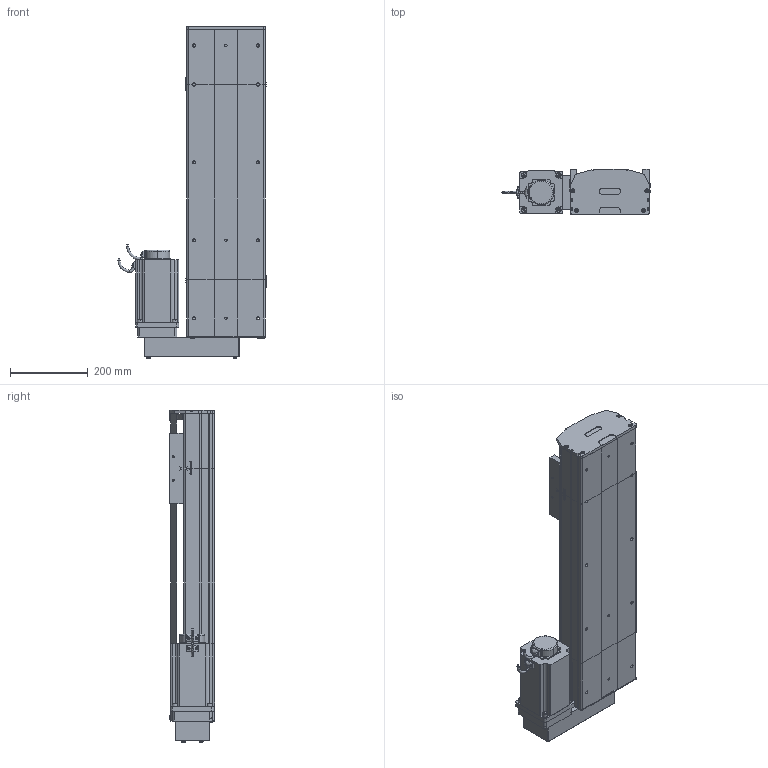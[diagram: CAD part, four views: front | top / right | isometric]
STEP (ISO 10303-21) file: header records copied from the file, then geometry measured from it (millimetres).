
FILE_DESCRIPTION (( 'STEP AP214' ), '1' );
FILE_NAME ('D20 TSH BL S500.STEP', '2010-06-30T08:31:51', ( 'Conseil Régional Haute-Normandie' ), ( 'Conseil Régional Haute-Normandie' ), 'SwSTEP 2.0', 'SolidWorks 2010', '' );
FILE_SCHEMA (( 'AUTOMOTIVE_DESIGN' ));
Length unit declared in the file: millimetre
Products named in the file (35): clavette; Conecteur_Default; corp D20 S500_Default; vis M8 L12_Default; corps 110BLDC170A-630x; Plaque racord D20_Default; plaque de  bout head BR D20_Default; Arbre+rail head D20; rail + arbre  D20 S500; codeur 110BLDC170A-630x; couvercle D20 S500_Default; head BL D20_Default; tail D20 +100_Default; corpl head MD D20_Default; avant 110BLDC170A-630x; Moteur motionking 110BLDC170A-640x; vis M5 L70_Default; renvoi  BR_Default; Conecteur2_Default; couvercle head l D20_Default; tete d''axe bas D20; Chariot D20; corpl tail D20 +100_Default; couvercle tail D20_Default; tete d''axe haut D20; vis M5 L25_Default; guide D20; 2 vis M5 L12_Default; plaque de  bout tail D20_Default; vis M5 L8 90°_Default; chariot D20S_Default; vis M5 L12_Default; Arbre+rail tail D20; course D20 L500_Default; D20 TSH BL S500
Assembly tree (59 placements, depth 4):
  D20 TSH BL S500
    head BL D20_Default
      vis M8 L12_Default  x4
      vis M5 L70_Default  x4
      vis M5 L25_Default  x2
      Arbre+rail head D20
      2 vis M5 L12_Default  x6
      renvoi  BR_Default
      plaque de  bout head BR D20_Default
      vis M5 L12_Default  x2
      Plaque racord D20_Default
      corpl head MD D20_Default
      Moteur motionking 110BLDC170A-640x
        codeur 110BLDC170A-630x
        corps 110BLDC170A-630x
        Conecteur2_Default
        avant 110BLDC170A-630x
        Conecteur_Default
        clavette
      couvercle head l D20_Default
    tail D20 +100_Default
      vis M5 L25_Default  x2
      tete d''axe haut D20
      2 vis M5 L12_Default  x4
      tete d''axe bas D20
      Arbre+rail tail D20
      corpl tail D20 +100_Default
      couvercle tail D20_Default
      vis M5 L8 90°_Default  x2
      plaque de  bout tail D20_Default
    chariot D20S_Default
      vis M5 L12_Default  x4
      guide D20  x2
      Chariot D20
    course D20 L500_Default
      rail + arbre  D20 S500
      corp D20 S500_Default
      couvercle D20 S500_Default
Bounding box: 380 x 115.7 x 851.7 mm (x, y, z)
Volume: 9711366.7 mm3; surface area: 1932988.3 mm2
Topology: 84 solids, 84 shells, 2308 faces, 5762 edges, 3719 vertices
Faces by surface type: plane 1384, cylinder 636, bspline 136, torus 77, cone 71, sphere 4
Entity records: 74461 total; most frequent: CARTESIAN_POINT 24223, ORIENTED_EDGE 8820, DIRECTION 8337, EDGE_CURVE 4410, VECTOR 2931, LINE 2931, VERTEX_POINT 2901, AXIS2_PLACEMENT_3D 2703
